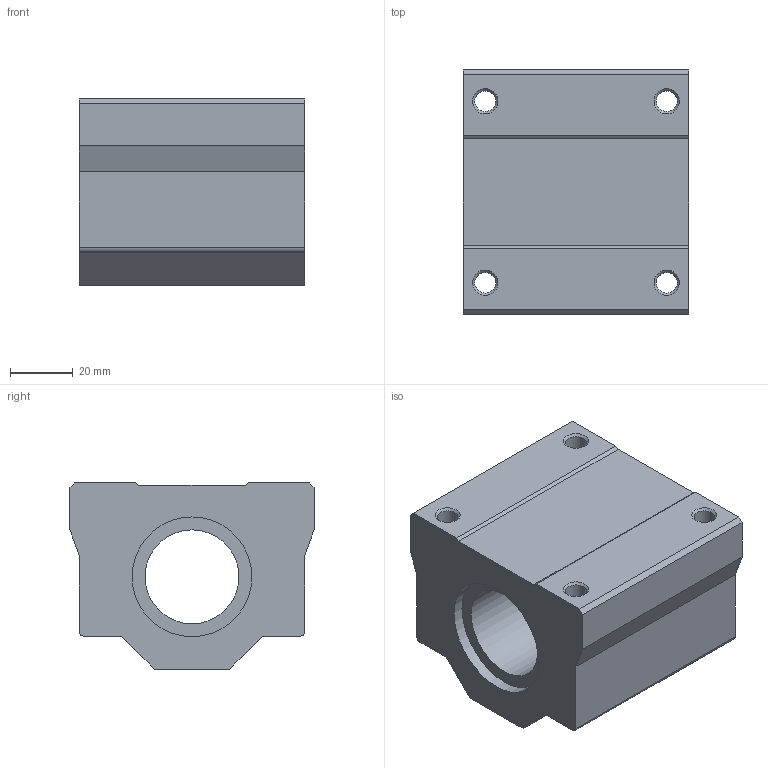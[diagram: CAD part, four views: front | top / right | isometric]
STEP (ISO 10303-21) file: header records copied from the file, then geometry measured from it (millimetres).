
FILE_DESCRIPTION( ( 'Unknown' ), '1' );
FILE_NAME( 'D:/累诀/己绕皋墨飘肺葱胶/11-04-06_档搁累己/01_府聪绢何教/SC/SC 30.stp', 'Unknown', ( 'Unknown' ), ( 'Unknown' ), 'PSStep 11.0', 'Unknown', ' ' );
FILE_SCHEMA( ( 'AUTOMOTIVE_DESIGN { 1 0 10303 214 1 1 1 1 }' ) );
Length unit declared in the file: millimetre
Products named in the file (1): 1
Bounding box: 72 x 78 x 59.5 mm (x, y, z)
Volume: 225436.4 mm3; surface area: 35671.4 mm2
Topology: 1 solids, 1 shells, 39 faces, 111 edges, 76 vertices
Faces by surface type: plane 22, cylinder 13, cone 4
Full cylindrical faces by diameter (mm): 6.647 x8, 30 x1, 38.25 x2
Entity records: 1426 total; most frequent: DIRECTION 188, CARTESIAN_POINT 184, ORIENTED_EDGE 164, EDGE_CURVE 82, AXIS2_PLACEMENT_3D 66, EDGE_LOOP 66, VERTEX_POINT 62, LINE 56
